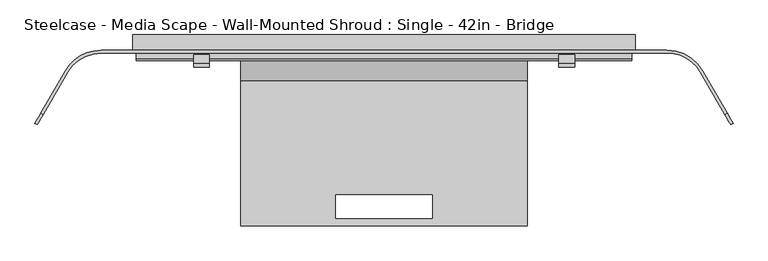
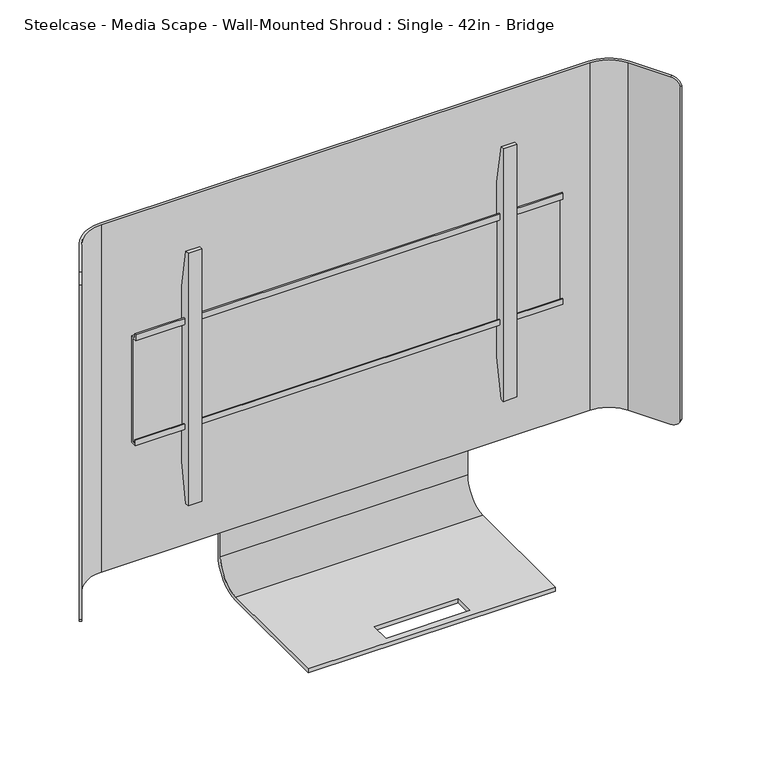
"""IFC4 building model written with IfcOpenShell, lengths in millimetres: furniture geometry, Steelcase - Media Scape - Wall-Mounted Shroud : Single - 42in - Bridge."""

from ifc_helpers import new_model, si_unit, frame, origin, place, context, project, spatial, polyline, circle_curve, outline, extrude, source, transform, mapped, element, save
from ifc_brep_helpers import plane_surface, cylinder_surface, revolved_surface, advanced_brep


def steelcase_media_scape_wall_mounted_shroud_single_42in_bridge_d577d0ef(model_context):
    return source(origin(), model_context, "Body", "SolidModel", [
        advanced_brep(
        [(234.9499879, -25.4, 783.5646188), (234.9499879, -75.8697585, 733.0948603), (234.9499879, -314.3253876, 733.0948603), (234.9499879, -314.3253876, 725.1446188), (234.9499879, -75.8696132, 725.1446188), (234.9499879, -17.4496132, 783.5646188), (234.9499879, -17.4496132, 1088.6947876), (234.9499879, -25.4, 1088.6947876), (-234.9499879, -25.4, 783.5646188), (-234.9499879, -25.4, 1088.6947876), (-234.9499879, -17.4496132, 1088.6947876), (-234.9499879, -17.4496132, 783.5646188), (-234.9499879, -75.8696132, 725.1446188), (-234.9499879, -314.3253876, 725.1446188), (-234.9499879, -314.3253876, 733.0948603), (-234.9499879, -75.8697585, 733.0948603), (-79.502, -263.5253876, 733.0948603), (79.502, -263.5253876, 733.0948603), (79.502, -301.6253876, 733.0948603), (-79.502, -301.6253876, 733.0948603), (79.502, -263.5253876, 725.1446188), (-79.502, -263.5253876, 725.1446188), (-79.502, -301.6253876, 725.1446188), (79.502, -301.6253876, 725.1446188)],
        [
            (0, 1, circle_curve(frame((234.9499879, -75.8697585, 783.5646188), z_axis=(-1.0, 0.0, 0.0), x_axis=(0.0, 1.0, 0.0)), 50.4697585)),
            (1, 2),
            (2, 3),
            (3, 4),
            (4, 5, circle_curve(frame((234.9499879, -75.8696132, 783.5646188), z_axis=(1.0, 0.0, 0.0), x_axis=(0.0, 1.0, 0.0)), 58.42)),
            (5, 6),
            (6, 7),
            (7, 0),
            (8, 9),
            (9, 10),
            (10, 11),
            (11, 12, circle_curve(frame((-234.9499879, -75.8696132, 783.5646188), z_axis=(-1.0, 0.0, 0.0), x_axis=(0.0, 1.0, 0.0)), 58.42)),
            (12, 13),
            (13, 14),
            (14, 15),
            (15, 8, circle_curve(frame((-234.9499879, -75.8697585, 783.5646188), z_axis=(1.0, 0.0, 0.0), x_axis=(0.0, 1.0, 0.0)), 50.4697585)),
            (1, 15),
            (14, 2),
            (16, 17),
            (17, 18),
            (18, 19),
            (19, 16),
            (13, 3),
            (12, 4),
            (20, 21),
            (21, 22),
            (22, 23),
            (23, 20),
            (5, 11),
            (10, 6),
            (9, 7),
            (8, 0),
            (20, 17),
            (16, 21),
            (19, 22),
            (18, 23),
        ],
        [
            plane_surface(frame((234.9499879, -25.4, 783.5646188), z_axis=(1.0, 0.0, 0.0), x_axis=(0.0, 0.0, -1.0))),
            plane_surface(frame((-234.9499879, -25.4, 783.5646188), z_axis=(-1.0, 0.0, 0.0), x_axis=(0.0, 0.0, 1.0))),
            plane_surface(frame((234.9499879, -75.8697585, 733.0948603), z_axis=(0.0, 0.0, 1.0), x_axis=(-1.0, 0.0, 0.0))),
            plane_surface(frame((234.9499879, -314.3253876, 733.0948603), z_axis=(0.0, -1.0, 0.0), x_axis=(-1.0, 0.0, 0.0))),
            plane_surface(frame((234.9499879, -314.3253876, 725.1446188), z_axis=(0.0, 0.0, -1.0), x_axis=(-1.0, 0.0, 0.0))),
            plane_surface(frame((234.9499879, -17.4496132, 783.5646188), z_axis=(0.0, 1.0, 0.0), x_axis=(-1.0, 0.0, 0.0))),
            plane_surface(frame((234.9499879, -17.4496132, 1088.6947876), z_axis=(0.0, 0.0, 1.0), x_axis=(-1.0, 0.0, 0.0))),
            plane_surface(frame((234.9499879, -25.4, 1088.6947876), z_axis=(0.0, -1.0, 0.0), x_axis=(-1.0, 0.0, 0.0))),
            revolved_surface(polyline([(-234.9499879, -25.400000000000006, 783.5646188), (234.9499879, -25.400000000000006, 783.5646188)]), (-234.9499879, -75.8697585, 783.5646188), (-1.0, 0.0, 0.0)),
            cylinder_surface(frame((-234.9499879, -75.8696132, 783.5646188), z_axis=(1.0, 0.0, 0.0), x_axis=(0.0, 1.0, 0.0)), 58.42),
            plane_surface(frame((79.502, -263.5253876, 1824.7300588), z_axis=(0.0, -1.0, 0.0), x_axis=(0.0, 0.0, -1.0))),
            plane_surface(frame((-79.502, -263.5253876, 1824.7300588), z_axis=(1.0, 0.0, 0.0), x_axis=(0.0, 0.0, -1.0))),
            plane_surface(frame((-79.502, -301.6253876, 1824.7300588), z_axis=(0.0, 1.0, 0.0), x_axis=(0.0, 0.0, -1.0))),
            plane_surface(frame((79.502, -301.6253876, 1824.7300588), z_axis=(-1.0, 0.0, 0.0), x_axis=(0.0, 0.0, -1.0))),
        ],
        [
            (0, [[1, 2, 3, 4, 5, 6, 7, 8]]),
            (1, [[9, 10, 11, 12, 13, 14, 15, 16]]),
            (2, [[-2, 17, -15, 18], [19, 20, 21, 22]]),
            (3, [[-3, -18, -14, 23]]),
            (4, [[-4, -23, -13, 24], [25, 26, 27, 28]]),
            (5, [[-6, 29, -11, 30]]),
            (6, [[-7, -30, -10, 31]]),
            (7, [[-8, -31, -9, 32]]),
            (8, [[-1, -32, -16, -17]]),
            (9, [[-5, -24, -12, -29]]),
            (10, [[33, -19, 34, -25]]),
            (11, [[-34, -22, 35, -26]]),
            (12, [[-35, -21, 36, -27]]),
            (13, [[-33, -28, -36, -20]]),
        ],
    ),
        extrude(outline(polyline([(-42.4942785, 1288.4504726), (-42.4942785, 1300.4645649), (-39.8272175, 1300.4645649), (-39.8272175, 1291.117461), (-29.9720009, 1291.117461), (-29.9720009, 1076.7922438), (-42.3164551, 1076.7922438), (-42.3164551, 1087.7142515), (-39.649394, 1087.7142515), (-39.649394, 1079.457052), (-32.6531824, 1079.457052), (-32.6531824, 1288.4504726), (-42.4942785, 1288.4504726)])), frame((-406.4, 0.0, 0.0), z_axis=(1.0, 0.0, 0.0), x_axis=(0.0, 1.0, 0.0)), (0.0, 0.0, 1.0), 812.8),
        extrude(outline(polyline([(-32.6531824, 1359.3971148), (-32.6531824, 1007.5825607), (-46.5049349, 929.9546949), (-53.3399828, 929.9546949), (-53.3399828, 1437.9547192), (-46.5050076, 1437.9547192), (-32.6531824, 1359.3971148)])), frame((286.6392868, 0.0, 0.0), z_axis=(1.0, 0.0, 0.0), x_axis=(0.0, 1.0, 0.0)), (0.0, 0.0, 1.0), 26.1592872),
        extrude(outline(polyline([(-32.6531824, 1359.3971148), (-32.6531824, 1007.5825607), (-46.5049349, 929.9546949), (-53.3399828, 929.9546949), (-53.3399828, 1437.9547192), (-46.5050076, 1437.9547192), (-32.6531824, 1359.3971148)])), frame((-312.798574, 0.0, 0.0), z_axis=(1.0, 0.0, 0.0), x_axis=(0.0, 1.0, 0.0)), (0.0, 0.0, 1.0), 26.1592872),
        advanced_brep(
        [(-519.5586135, -61.722, 1534.414), (-464.566002, -29.9720009, 1534.414), (464.566, -29.9720009, 1534.414), (519.5586135, -61.722, 1534.414), (559.679586, -131.2135628, 1534.414), (563.6390541, -128.9275628, 1534.414), (523.5180817, -59.436, 1534.414), (464.566002, -25.4, 1534.414), (-464.566, -25.4, 1534.414), (-523.5180817, -59.436, 1534.414), (-563.6421659, -128.9329524, 1534.414), (-559.6826977, -131.2189524, 1534.414), (-523.5180817, -59.436, 835.914), (-464.566002, -25.4, 835.914), (464.566, -25.4, 835.914), (523.5180817, -59.436, 835.914), (563.6906629, -129.0169518, 835.914), (559.7311948, -131.3029518, 835.914), (519.5586135, -61.722, 835.914), (464.566002, -29.9720009, 835.914), (-464.566, -29.9720009, 835.914), (-519.5586135, -61.722, 835.914), (-559.7454014, -131.3275584, 835.914), (-563.7048695, -129.0415584, 835.914), (-573.2090632, -145.5033047, 849.5242766), (-573.2090632, -145.5033047, 1520.4227735), (-569.2495951, -147.7893047, 1520.4227735), (-569.2495951, -147.7893047, 849.5242766), (569.2270866, -147.7503189, 849.4756893), (569.2270866, -147.7503189, 1520.5433849), (573.1865547, -145.4643189, 1520.5433849), (573.1865547, -145.4643189, 849.4756893)],
        [
            (0, 1, circle_curve(frame((-464.566002, -93.4719991, 1534.414), z_axis=(0.0, 0.0, -1.0), x_axis=(0.0, 1.0, 0.0)), 63.4999981)),
            (1, 2),
            (2, 3, circle_curve(frame((464.566002, -93.4719991, 1534.414), z_axis=(0.0, 0.0, -1.0), x_axis=(0.0, 1.0, 0.0)), 63.4999981)),
            (3, 4),
            (4, 5),
            (5, 6),
            (6, 7, circle_curve(frame((464.5660004, -93.472, 1534.414), z_axis=(0.0, 0.0, 1.0), x_axis=(0.0, 1.0, 0.0)), 68.072)),
            (7, 8),
            (8, 9, circle_curve(frame((-464.5660004, -93.472, 1534.414), z_axis=(0.0, 0.0, 1.0), x_axis=(0.0, 1.0, 0.0)), 68.072)),
            (9, 10),
            (10, 11),
            (11, 0),
            (12, 13, circle_curve(frame((-464.5660004, -93.472, 835.914), z_axis=(0.0, 0.0, -1.0), x_axis=(0.0, 1.0, 0.0)), 68.072)),
            (13, 14),
            (14, 15, circle_curve(frame((464.5660004, -93.472, 835.914), z_axis=(0.0, 0.0, -1.0), x_axis=(0.0, 1.0, 0.0)), 68.072)),
            (15, 16),
            (16, 17),
            (17, 18),
            (18, 19, circle_curve(frame((464.566002, -93.4719991, 835.914), z_axis=(0.0, 0.0, 1.0), x_axis=(0.0, 1.0, 0.0)), 63.4999981)),
            (19, 20),
            (20, 21, circle_curve(frame((-464.566002, -93.4719991, 835.914), z_axis=(0.0, 0.0, 1.0), x_axis=(0.0, 1.0, 0.0)), 63.4999981)),
            (21, 22),
            (22, 23),
            (23, 12),
            (0, 21),
            (20, 1),
            (8, 13),
            (12, 9),
            (23, 24, circle_curve(frame((-563.7048695, -129.0415584, 855.9928872), z_axis=(-0.8660254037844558, 0.4999999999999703, 0.0), x_axis=(-0.4999999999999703, -0.8660254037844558, 0.0)), 20.0788872)),
            (24, 25),
            (25, 10, circle_curve(frame((-563.6421659, -128.9329524, 1514.3351128), z_axis=(-0.866025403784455, 0.49999999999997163, 0.0), x_axis=(-0.49999999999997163, -0.866025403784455, 0.0)), 20.0788872)),
            (26, 25),
            (24, 27),
            (27, 26),
            (11, 26, circle_curve(frame((-559.6826977, -131.2189524, 1514.3351128), z_axis=(0.866025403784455, -0.49999999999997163, 0.0), x_axis=(-0.49999999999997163, -0.866025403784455, 0.0)), 20.0788872)),
            (27, 22, circle_curve(frame((-559.7454014, -131.3275584, 855.9928872), z_axis=(0.8660254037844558, -0.4999999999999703, 0.0), x_axis=(-0.4999999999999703, -0.8660254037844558, 0.0)), 20.0788872)),
            (7, 14),
            (19, 2),
            (3, 18),
            (17, 28, circle_curve(frame((559.7311948, -131.3029518, 855.9928872), z_axis=(-0.8660254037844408, -0.4999999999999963, 0.0), x_axis=(0.4999999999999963, -0.8660254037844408, 0.0)), 20.0788872)),
            (28, 29),
            (29, 4, circle_curve(frame((559.679586, -131.2135628, 1514.3351128), z_axis=(-0.86602540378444, -0.4999999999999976, 0.0), x_axis=(0.4999999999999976, -0.86602540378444, 0.0)), 20.0788872)),
            (30, 29),
            (28, 31),
            (31, 30),
            (15, 6),
            (5, 30, circle_curve(frame((563.6390541, -128.9275628, 1514.3351128), z_axis=(0.86602540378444, 0.4999999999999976, 0.0), x_axis=(0.4999999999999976, -0.86602540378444, 0.0)), 20.0788872)),
            (31, 16, circle_curve(frame((563.6906629, -129.0169518, 855.9928872), z_axis=(0.8660254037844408, 0.4999999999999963, 0.0), x_axis=(0.4999999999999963, -0.8660254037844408, 0.0)), 20.0788872)),
        ],
        [
            plane_surface(frame((-464.566002, -29.9720009, 1534.414), z_axis=(0.0, 0.0, 1.0), x_axis=(1.0, 0.0, 0.0))),
            plane_surface(frame((-464.566002, -29.9720009, 835.914), z_axis=(0.0, 0.0, -1.0), x_axis=(-1.0, 0.0, 0.0))),
            revolved_surface(polyline([(-464.566002, -29.972001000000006, 835.914), (-464.566002, -29.972001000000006, 1534.414)]), (-464.566002, -93.4719991, 835.914), (0.0, 0.0, -1.0)),
            cylinder_surface(frame((-464.5660004, -93.472, 835.914), z_axis=(0.0, 0.0, 1.0), x_axis=(0.0, 1.0, 0.0)), 68.072),
            plane_surface(frame((-523.5180817, -59.436, 1534.414), z_axis=(-0.866025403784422, 0.5000000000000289, 0.0), x_axis=(0.0, 0.0, -1.0))),
            plane_surface(frame((-573.2090632, -145.5033047, 1534.414), z_axis=(-0.5000000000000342, -0.866025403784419, 0.0), x_axis=(0.0, 0.0, -1.0))),
            plane_surface(frame((-569.2495951, -147.7893047, 1534.414), z_axis=(0.8660254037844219, -0.500000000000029, 0.0), x_axis=(0.0, 0.0, -1.0))),
            plane_surface(frame((464.566, -25.4, 1534.414), z_axis=(0.0, 1.0, 0.0), x_axis=(0.0, 0.0, -1.0))),
            plane_surface(frame((-464.566, -29.9720009, 1534.414), z_axis=(0.0, -1.0, 0.0), x_axis=(0.0, 0.0, -1.0))),
            plane_surface(frame((519.5586135, -61.722, 1534.414), z_axis=(-0.8660254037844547, -0.4999999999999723, 0.0), x_axis=(0.0, 0.0, -1.0))),
            plane_surface(frame((569.2270866, -147.7503189, 1534.414), z_axis=(0.4999999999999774, -0.8660254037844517, 0.0), x_axis=(0.0, 0.0, -1.0))),
            plane_surface(frame((573.1865547, -145.4643189, 1534.414), z_axis=(0.8660254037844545, 0.49999999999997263, 0.0), x_axis=(0.0, 0.0, -1.0))),
            cylinder_surface(frame((464.5660004, -93.472, 835.914), z_axis=(0.0, 0.0, 1.0), x_axis=(0.0, 1.0, 0.0)), 68.072),
            revolved_surface(polyline([(464.566002, -29.972001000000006, 835.914), (464.566002, -29.972001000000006, 1534.414)]), (464.566002, -93.4719991, 835.914), (0.0, 0.0, -1.0)),
            cylinder_surface(frame((-559.6826977, -131.2189524, 1514.3351128), z_axis=(0.866025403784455, -0.49999999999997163, 0.0), x_axis=(-0.49999999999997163, -0.866025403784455, 0.0)), 20.0788872),
            cylinder_surface(frame((-559.7454014, -131.3275584, 855.9928872), z_axis=(0.8660254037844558, -0.4999999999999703, 0.0), x_axis=(-0.4999999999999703, -0.8660254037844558, 0.0)), 20.0788872),
            cylinder_surface(frame((574.7864297, -122.4916225, 1514.3351128), z_axis=(0.86602540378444, 0.4999999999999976, 0.0), x_axis=(0.4999999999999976, -0.86602540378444, 0.0)), 20.0788872),
            cylinder_surface(frame((571.9789695, -124.2316958, 855.9928872), z_axis=(0.8660254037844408, 0.4999999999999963, 0.0), x_axis=(0.4999999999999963, -0.8660254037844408, 0.0)), 20.0788872),
        ],
        [
            (0, [[1, 2, 3, 4, 5, 6, 7, 8, 9, 10, 11, 12]]),
            (1, [[13, 14, 15, 16, 17, 18, 19, 20, 21, 22, 23, 24]]),
            (2, [[-1, 25, -21, 26]]),
            (3, [[-9, 27, -13, 28]]),
            (4, [[-28, -24, 29, 30, 31, -10]]),
            (5, [[32, -30, 33, 34]]),
            (6, [[-25, -12, 35, -34, 36, -22]]),
            (7, [[-8, 37, -14, -27]]),
            (8, [[-2, -26, -20, 38]]),
            (9, [[39, -18, 40, 41, 42, -4]]),
            (10, [[43, -41, 44, 45]]),
            (11, [[46, -6, 47, -45, 48, -16]]),
            (12, [[-7, -46, -15, -37]]),
            (13, [[-3, -38, -19, -39]]),
            (14, [[-11, -31, -32, -35]]),
            (15, [[-23, -36, -33, -29]]),
            (16, [[-5, -42, -43, -47]]),
            (17, [[-17, -48, -44, -40]]),
        ],
    ),
        extrude(outline(polyline([(912.1648167, 349.2499879), (912.1648167, 412.75), (1458.214, 412.75), (1458.214, -412.75), (912.1648167, -412.75), (912.1648167, -350.2433465), (1394.7139516, -350.2433465), (1394.7139516, 349.2499879), (912.1648167, 349.2499879)])), frame((0.0, -25.4, 0.0), z_axis=(0.0, 1.0, 0.0), x_axis=(0.0, 0.0, 1.0)), (0.0, 0.0, 1.0), 25.4),
    ])


if __name__ == "__main__":
    model = new_model("IFC4")
    model_context = context("Model", 3, world=origin())
    ifc_project = project(units=[si_unit("LENGTHUNIT", "METRE", prefix="MILLI")], contexts=[model_context])
    site = spatial("IfcSite", under=ifc_project)
    building = spatial("IfcBuilding", under=site)
    placement = place(None, origin())
    steelcase_media_scape_wall_mounted_shroud_single_42in_bridge_shape = steelcase_media_scape_wall_mounted_shroud_single_42in_bridge_d577d0ef(model_context)
    element("IfcFurniture", 1, ObjectType="Steelcase - Media Scape - Wall-Mounted Shroud : Single - 42in - Bridge", at=placement, inside=building, context=model_context, shape_type="MappedRepresentation", body=[
        mapped(steelcase_media_scape_wall_mounted_shroud_single_42in_bridge_shape, transform((0.0, 0.0, 0.0), x_axis=(1.0, 0.0, 0.0), y_axis=(0.0, 1.0, 0.0), z_axis=(0.0, 0.0, 1.0))),
    ])
    save(model, "model.ifc")
